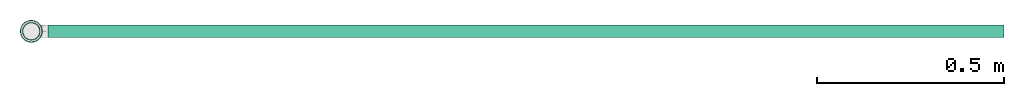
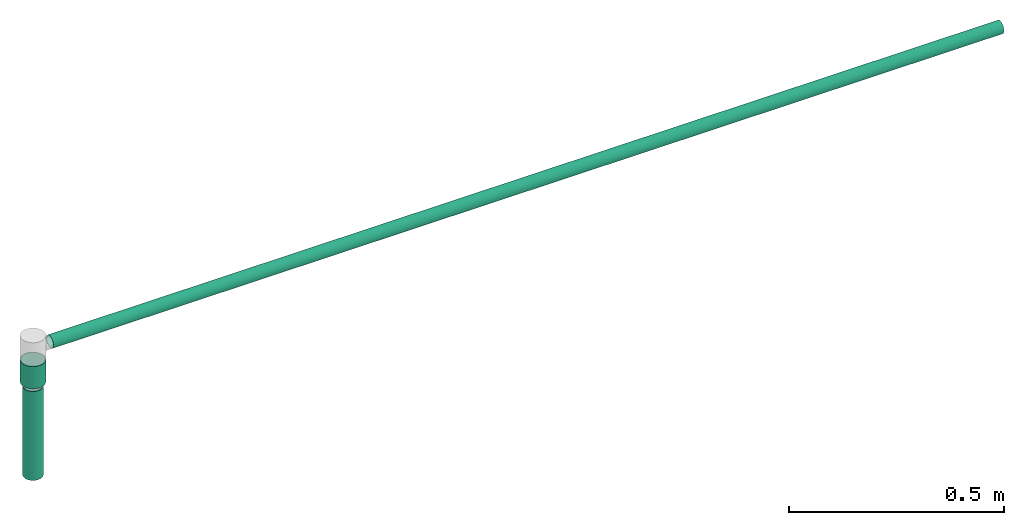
# One storey, part 1 of 2: 3 flow segments.
"""IFC2X3 building model written with IfcOpenShell, lengths in millimetres."""

from ifc_helpers import new_model, entity, si_unit, converted_unit, derived_unit, direction, frame, origin_with_axes, origin_2d_with_axis, place, context, subcontext, project, spatial, hollow_circle, extrude, source, transform, mapped, type_object, element, save


model = new_model("IFC2X3")

# Units and contexts
model_context = context("Model", 3, precision=0.01, world=frame((0.0, 4.29681676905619e-09, 0.0)), true_north=direction((4.01073788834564e-13, 1.0)))
plan_context = context("Plan", 3, precision=0.01, world=frame((0.0, 4.29681676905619e-09, 0.0)), true_north=direction((4.01073788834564e-13, 1.0)))
body_context = subcontext(model_context, "Body", "Model", "MODEL_VIEW")
ifc_project = project(units=[converted_unit("PLANEANGLEUNIT", "DEGREE", entity("IfcPositiveLengthMeasure", 0.0174532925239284), si_unit("PLANEANGLEUNIT", "RADIAN"), dimensions=[0, 0, 0, 0, 0, 0, 0]), si_unit("AREAUNIT", "SQUARE_METRE"), si_unit("LENGTHUNIT", "METRE", prefix="MILLI"), si_unit("MASSUNIT", "GRAM", prefix="KILO"), si_unit("POWERUNIT", "WATT"), si_unit("PRESSUREUNIT", "PASCAL", prefix="KILO"), si_unit("FORCEUNIT", "NEWTON", prefix="KILO"), si_unit("ELECTRICVOLTAGEUNIT", "VOLT"), si_unit("ELECTRICCURRENTUNIT", "AMPERE"), si_unit("THERMODYNAMICTEMPERATUREUNIT", "DEGREE_CELSIUS"), si_unit("TIMEUNIT", "SECOND"), si_unit("VOLUMEUNIT", "CUBIC_METRE"), derived_unit("LINEARVELOCITYUNIT", [(si_unit("LENGTHUNIT", "METRE"), 1), (si_unit("TIMEUNIT", "SECOND"), -1)]), derived_unit("VOLUMETRICFLOWRATEUNIT", [(si_unit("VOLUMEUNIT", "CUBIC_METRE"), 1), (si_unit("TIMEUNIT", "SECOND"), -1)]), derived_unit("THERMALTRANSMITTANCEUNIT", [(si_unit("POWERUNIT", "WATT"), 1), (si_unit("THERMODYNAMICTEMPERATUREUNIT", "KELVIN"), -1), (si_unit("AREAUNIT", "SQUARE_METRE"), -1)]), derived_unit("SOUNDPRESSUREUNIT", [(si_unit("PRESSUREUNIT", "PASCAL"), 1)])], contexts=[model_context, plan_context])

# Site, building, storey
site_placement = place(None, frame((0.0, -4.29681676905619e-09, 0.0), z_axis=(0.0, 0.0, 1.0), x_axis=(1.0, 0.0, 0.0)))
site = spatial("IfcSite", under=ifc_project, at=site_placement, CompositionType="ELEMENT")
building_placement = place(site_placement, frame((0.0, 4.29681676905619e-09, 0.0), z_axis=(0.0, 0.0, 1.0), x_axis=(1.0, 0.0, 0.0)))
building = spatial("IfcBuilding", under=site, at=building_placement, Name="mc-building", CompositionType="ELEMENT")
storey_placement = place(building_placement, frame((0.0, 0.0, 207370.0), z_axis=(0.0, 0.0, 1.0), x_axis=(1.0, 0.0, 0.0)))
storey = spatial("IfcBuildingStorey", under=building, at=storey_placement, Name="Nivå E", CompositionType="ELEMENT", Elevation=207370.0)

# Flow segments
pipe_segment_type = type_object("IfcPipeSegmentType", Name="Stålrør normaltykke", PredefinedType="RIGIDSEGMENT")
shared_shape_1 = source(origin_with_axes(), body_context, "Body", "SweptSolid", [
    extrude(hollow_circle(Radius=24.1, WallThickness=2.0, at=origin_2d_with_axis()), frame((0.0, 0.0, 0.0), z_axis=(1.0, 0.0, 0.0), x_axis=(0.0, 1.0, 0.0)), (0.0, 0.0, 1.0), 252.7),
])
flow_segment_1_placement = place(storey_placement, frame((596244.66498, 405204.64073, -88.9500000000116), z_axis=(1.0, 0.0, 0.0), x_axis=(0.0, 0.0, -1.0)))
element("IfcFlowSegment", 1, at=flow_segment_1_placement, inside=storey, type_object=pipe_segment_type, Name="Stålrør normaltykke", context=body_context, shape_type="MappedRepresentation", body=[
    mapped(shared_shape_1, transform((0.0, 0.0, 0.0), scale=1.0)),
])
shared_shape_2 = source(origin_with_axes(), body_context, "Body", "SweptSolid", [
    extrude(hollow_circle(Radius=30.1, WallThickness=2.0, at=origin_2d_with_axis()), frame((0.0, 0.0, 0.0), z_axis=(1.0, 0.0, 0.0), x_axis=(0.0, 1.0, 0.0)), (0.0, 0.0, 1.0), 63.1),
])
flow_segment_2_placement = place(storey_placement, frame((596244.66498, 405204.64073, -13.7999999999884), z_axis=(1.0, 0.0, 0.0), x_axis=(0.0, 0.0, -1.0)))
element("IfcFlowSegment", 2, at=flow_segment_2_placement, inside=storey, type_object=pipe_segment_type, Name="Stålrør normaltykke", context=body_context, shape_type="MappedRepresentation", body=[
    mapped(shared_shape_2, transform((0.0, 0.0, 0.0), scale=1.0)),
])
shared_shape_3 = source(origin_with_axes(), body_context, "Body", "SweptSolid", [
    extrude(hollow_circle(Radius=16.9, WallThickness=2.0, at=origin_2d_with_axis()), frame((0.0, 0.0, 0.0), z_axis=(1.0, 0.0, 0.0), x_axis=(0.0, 1.0, 0.0)), (0.0, 0.0, 1.0), 2554.9),
])
flow_segment_3_placement = place(storey_placement, frame((596289.96498, 405204.64073, 20.0), z_axis=(0.0, 0.0, 1.0), x_axis=(1.0, 0.0, 0.0)))
element("IfcFlowSegment", 3, at=flow_segment_3_placement, inside=storey, type_object=pipe_segment_type, Name="Stålrør normaltykke", context=body_context, shape_type="MappedRepresentation", body=[
    mapped(shared_shape_3, transform((0.0, 0.0, 0.0), scale=1.0)),
])

save(model, "model.ifc")
